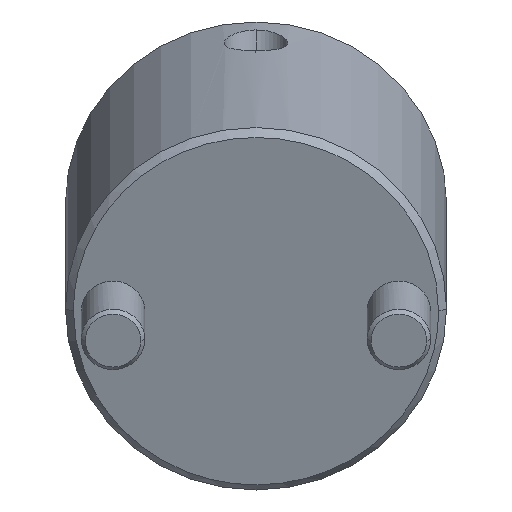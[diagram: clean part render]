
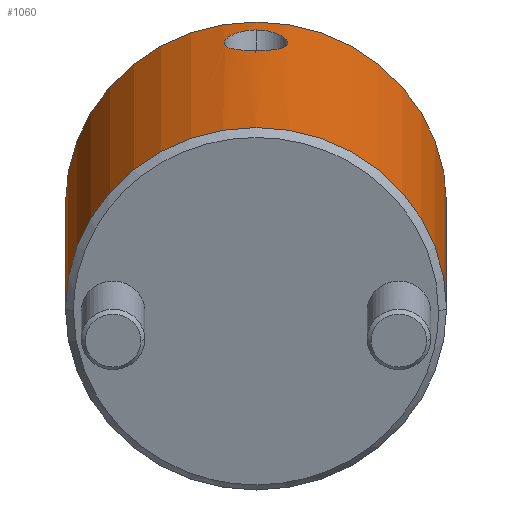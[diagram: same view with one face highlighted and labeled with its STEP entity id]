
A CAD part, front view. The second image highlights one B-rep face of the part: STEP entity #1060.
In plain terms, the highlighted cylindrical face has radius 24 mm (diameter 48 mm), a partial arc.
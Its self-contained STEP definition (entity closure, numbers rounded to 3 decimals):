
#805=CARTESIAN_POINT('Vertex',(0.,24.,1.)) ;
#808=CARTESIAN_POINT('Axis2P3D Location',(0.,0.,1.)) ;
#812=CARTESIAN_POINT('Vertex',(0.,-24.,1.)) ;
#964=CARTESIAN_POINT('Axis2P3D Location',(0.,0.,-2.25)) ;
#969=CARTESIAN_POINT('Line Origine',(0.,24.,-2.25)) ;
#973=CARTESIAN_POINT('Vertex',(0.,24.,44.)) ;
#976=CARTESIAN_POINT('Axis2P3D Location',(0.,0.,44.)) ;
#980=CARTESIAN_POINT('Vertex',(0.,-24.,44.)) ;
#983=CARTESIAN_POINT('Line Origine',(0.,-24.,-2.25)) ;
#995=CARTESIAN_POINT('Control Point',(24.,0.,40.754)) ;
#996=CARTESIAN_POINT('Control Point',(24.,0.378,40.754)) ;
#997=CARTESIAN_POINT('Control Point',(23.993,0.75,40.705)) ;
#998=CARTESIAN_POINT('Control Point',(23.978,1.114,40.608)) ;
#999=CARTESIAN_POINT('Control Point',(23.937,1.819,40.324)) ;
#1000=CARTESIAN_POINT('Control Point',(23.878,2.446,39.872)) ;
#1001=CARTESIAN_POINT('Control Point',(23.845,2.743,39.599)) ;
#1002=CARTESIAN_POINT('Control Point',(23.795,3.142,39.132)) ;
#1003=CARTESIAN_POINT('Control Point',(23.75,3.455,38.601)) ;
#1004=CARTESIAN_POINT('Control Point',(23.736,3.55,38.417)) ;
#1005=CARTESIAN_POINT('Control Point',(23.711,3.718,38.039)) ;
#1006=CARTESIAN_POINT('Control Point',(23.691,3.842,37.645)) ;
#1007=CARTESIAN_POINT('Control Point',(23.682,3.893,37.444)) ;
#1008=CARTESIAN_POINT('Control Point',(23.669,3.971,37.04)) ;
#1009=CARTESIAN_POINT('Control Point',(23.664,4.003,36.628)) ;
#1010=CARTESIAN_POINT('Control Point',(23.663,4.007,36.425)) ;
#1011=CARTESIAN_POINT('Control Point',(23.668,3.98,35.712)) ;
#1012=CARTESIAN_POINT('Control Point',(23.696,3.811,35.025)) ;
#1013=CARTESIAN_POINT('Control Point',(23.727,3.621,34.566)) ;
#1014=CARTESIAN_POINT('Control Point',(23.795,3.162,33.804)) ;
#1015=CARTESIAN_POINT('Control Point',(23.87,2.517,33.198)) ;
#1016=CARTESIAN_POINT('Control Point',(23.903,2.199,32.968)) ;
#1017=CARTESIAN_POINT('Control Point',(23.953,1.587,32.628)) ;
#1018=CARTESIAN_POINT('Control Point',(23.985,0.917,32.43)) ;
#1019=CARTESIAN_POINT('Control Point',(23.995,0.614,32.371)) ;
#1020=CARTESIAN_POINT('Control Point',(24.,0.308,32.342)) ;
#1021=CARTESIAN_POINT('Control Point',(24.,0.,32.342)) ;
#1022=CARTESIAN_POINT('Vertex',(24.,0.,40.754)) ;
#1024=CARTESIAN_POINT('Vertex',(24.,0.,32.342)) ;
#1028=CARTESIAN_POINT('Control Point',(24.,0.,32.342)) ;
#1029=CARTESIAN_POINT('Control Point',(24.,-0.489,32.342)) ;
#1030=CARTESIAN_POINT('Control Point',(23.988,-0.97,32.415)) ;
#1031=CARTESIAN_POINT('Control Point',(23.963,-1.444,32.563)) ;
#1032=CARTESIAN_POINT('Control Point',(23.909,-2.15,32.911)) ;
#1033=CARTESIAN_POINT('Control Point',(23.844,-2.746,33.416)) ;
#1034=CARTESIAN_POINT('Control Point',(23.819,-2.952,33.626)) ;
#1035=CARTESIAN_POINT('Control Point',(23.754,-3.447,34.235)) ;
#1036=CARTESIAN_POINT('Control Point',(23.701,-3.784,34.952)) ;
#1037=CARTESIAN_POINT('Control Point',(23.677,-3.928,35.431)) ;
#1038=CARTESIAN_POINT('Control Point',(23.654,-4.06,36.347)) ;
#1039=CARTESIAN_POINT('Control Point',(23.673,-3.95,37.271)) ;
#1040=CARTESIAN_POINT('Control Point',(23.689,-3.855,37.674)) ;
#1041=CARTESIAN_POINT('Control Point',(23.723,-3.646,38.258)) ;
#1042=CARTESIAN_POINT('Control Point',(23.767,-3.341,38.798)) ;
#1043=CARTESIAN_POINT('Control Point',(23.782,-3.23,38.971)) ;
#1044=CARTESIAN_POINT('Control Point',(23.814,-2.988,39.302)) ;
#1045=CARTESIAN_POINT('Control Point',(23.847,-2.712,39.6)) ;
#1046=CARTESIAN_POINT('Control Point',(23.863,-2.568,39.737)) ;
#1047=CARTESIAN_POINT('Control Point',(23.894,-2.267,39.993)) ;
#1048=CARTESIAN_POINT('Control Point',(23.922,-1.942,40.207)) ;
#1049=CARTESIAN_POINT('Control Point',(23.935,-1.774,40.304)) ;
#1050=CARTESIAN_POINT('Control Point',(23.965,-1.34,40.52)) ;
#1051=CARTESIAN_POINT('Control Point',(23.986,-0.878,40.664)) ;
#1052=CARTESIAN_POINT('Control Point',(23.995,-0.59,40.724)) ;
#1053=CARTESIAN_POINT('Control Point',(24.,-0.297,40.754)) ;
#1054=CARTESIAN_POINT('Control Point',(24.,0.,40.754)) ;
#809=DIRECTION('Axis2P3D Direction',(0.,0.,1.)) ;
#965=DIRECTION('Axis2P3D Direction',(0.,-0.,1.)) ;
#966=DIRECTION('Axis2P3D XDirection',(0.,-1.,0.)) ;
#970=DIRECTION('Vector Direction',(0.,0.,1.)) ;
#977=DIRECTION('Axis2P3D Direction',(0.,-0.,1.)) ;
#984=DIRECTION('Vector Direction',(0.,0.,1.)) ;
#810=AXIS2_PLACEMENT_3D('Circle Axis2P3D',#808,#809,$) ;
#967=AXIS2_PLACEMENT_3D('Cylinder Axis2P3D',#964,#965,#966) ;
#978=AXIS2_PLACEMENT_3D('Circle Axis2P3D',#976,#977,$) ;
#989=ORIENTED_EDGE('',*,*,#975,.F.) ;
#990=ORIENTED_EDGE('',*,*,#982,.T.) ;
#991=ORIENTED_EDGE('',*,*,#987,.T.) ;
#992=ORIENTED_EDGE('',*,*,#814,.F.) ;
#1057=ORIENTED_EDGE('',*,*,#1026,.T.) ;
#1058=ORIENTED_EDGE('',*,*,#1055,.T.) ;
#1059=FACE_BOUND('',#1056,.T.) ;
#971=VECTOR('Line Direction',#970,1.) ;
#985=VECTOR('Line Direction',#984,1.) ;
#1060=ADVANCED_FACE('MANIFOLD_SOLID_BREP #1138',(#993,#1059),#968,.T.) ;
#994=B_SPLINE_CURVE_WITH_KNOTS('',5,(#995,#996,#997,#998,#999,#1000,#1001,#1002,#1003,#1004,#1005,#1006,#1007,#1008,#1009,#1010,#1011,#1012,#1013,#1014,#1015,#1016,#1017,#1018,#1019,#1020,#1021),.UNSPECIFIED.,.F.,.U.,(6,3,3,3,3,3,3,3,6),(0.,2.703,5.517,6.943,8.372,9.781,13.286,16.075,18.275),.UNSPECIFIED.) ;
#1027=B_SPLINE_CURVE_WITH_KNOTS('',5,(#1028,#1029,#1030,#1031,#1032,#1033,#1034,#1035,#1036,#1037,#1038,#1039,#1040,#1041,#1042,#1043,#1044,#1045,#1046,#1047,#1048,#1049,#1050,#1051,#1052,#1053,#1054),.UNSPECIFIED.,.F.,.U.,(6,3,3,3,3,3,3,3,6),(0.,3.487,5.583,9.086,11.927,13.351,14.762,16.158,18.278),.UNSPECIFIED.) ;
#811=CIRCLE('generated circle',#810,24.) ;
#979=CIRCLE('generated circle',#978,24.) ;
#968=CYLINDRICAL_SURFACE('generated cylinder',#967,24.) ;
#814=EDGE_CURVE('',#806,#813,#811,.F.) ;
#975=EDGE_CURVE('',#974,#806,#972,.F.) ;
#982=EDGE_CURVE('',#974,#981,#979,.F.) ;
#987=EDGE_CURVE('',#981,#813,#986,.F.) ;
#1026=EDGE_CURVE('',#1023,#1025,#994,.T.) ;
#1055=EDGE_CURVE('',#1025,#1023,#1027,.T.) ;
#988=EDGE_LOOP('',(#989,#990,#991,#992)) ;
#1056=EDGE_LOOP('',(#1057,#1058)) ;
#993=FACE_OUTER_BOUND('',#988,.T.) ;
#972=LINE('Line',#969,#971) ;
#986=LINE('Line',#983,#985) ;
#806=VERTEX_POINT('',#805) ;
#813=VERTEX_POINT('',#812) ;
#974=VERTEX_POINT('',#973) ;
#981=VERTEX_POINT('',#980) ;
#1023=VERTEX_POINT('',#1022) ;
#1025=VERTEX_POINT('',#1024) ;
